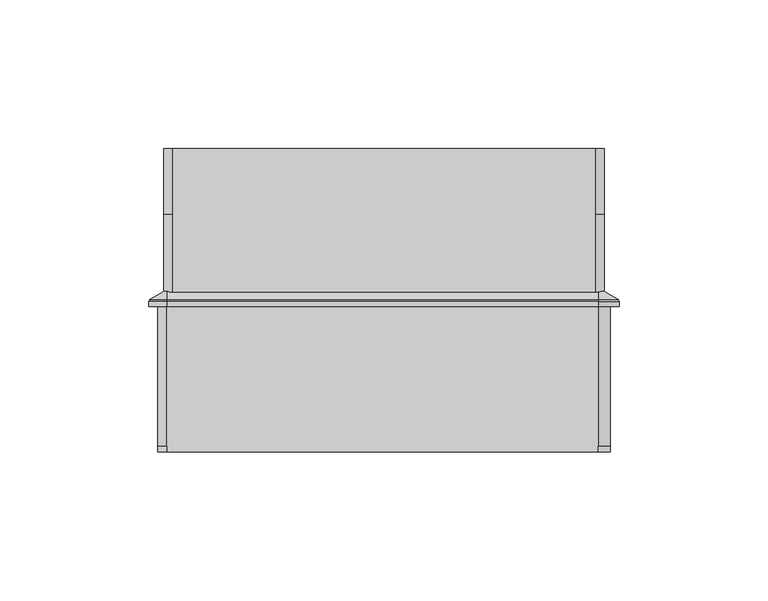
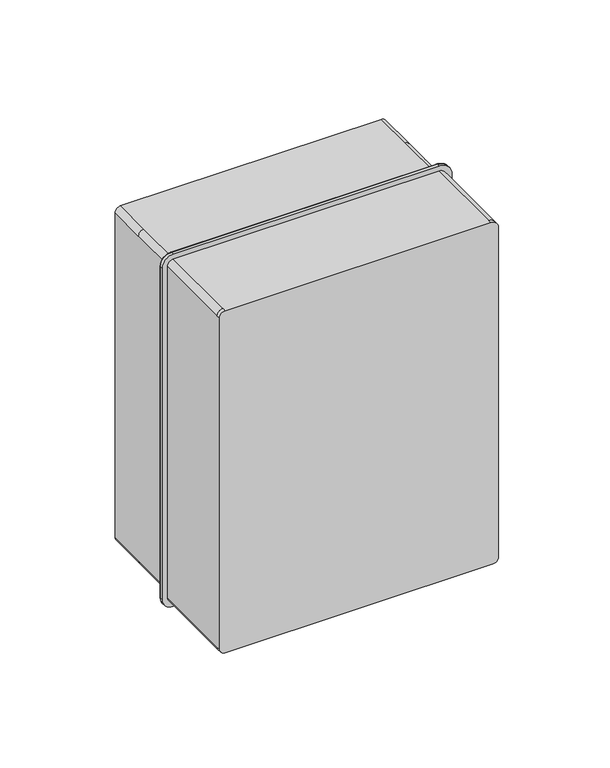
"""IFC4 building model written with IfcOpenShell, lengths in millimetres: proxy geometry, ЩРН-П-5_8_IP65 : ЩРН-П-8_IP65."""

from ifc_helpers import new_model, si_unit, point, frame, origin, place, context, project, spatial, polyline, circle_curve, ellipse_curve, trimmed, outline, extrude, source, transform, mapped, element, save
from ifc_brep_helpers import plane_surface, cylinder_surface, revolved_surface, advanced_brep


def electrical_equipment_87a8e6b7(model_context):
    return source(origin(), model_context, "Body", "SolidModel", [
        extrude(outline(polyline([(72.0, 82.0), (-72.0, 82.0), (-72.0, 102.0), (72.0, 102.0), (72.0, 82.0)])), frame((0.0, 0.0, -57.5), z_axis=(0.0, 0.0, 1.0), x_axis=(1.0, 0.0, 0.0)), (0.0, 0.0, 1.0), 115.0),
        advanced_brep(
        [(-73.0, 0.0, 98.5), (-76.0, 0.0, 95.5), (-76.0, 0.0, -95.5), (-73.0, 0.0, -98.5), (73.0, 0.0, -98.5), (76.0, 0.0, -95.5), (76.0, 0.0, 94.5283006), (72.0283006, 0.0, 98.5), (-73.0, 2.0, 98.5), (-76.0, 2.0, 95.5), (-76.0, 49.0, 95.5), (-76.0, 49.0, -95.5), (-76.0, 2.0, -95.5), (-73.0, 2.0, -98.5), (-73.0, 49.0, -98.5), (73.0, 49.0, -98.5), (73.0, 2.0, -98.5), (76.0, 2.0, -95.5), (76.0, 49.0, -95.5), (76.0, 49.0, 94.5283006), (76.0, 2.0, 94.5283006), (72.0283006, 2.0, 98.5), (72.0283006, 49.0, 98.5), (-73.0, 49.0, 98.5)],
        [
            (0, 1, circle_curve(frame((-73.0, 0.0, 95.5), z_axis=(0.0, -1.0, 0.0), x_axis=(1.0, 0.0, 0.0)), 3.0)),
            (1, 2),
            (2, 3, circle_curve(frame((-73.0, 0.0, -95.5), z_axis=(0.0, -1.0, 0.0), x_axis=(1.0, 0.0, 0.0)), 3.0)),
            (3, 4),
            (4, 5, circle_curve(frame((73.0, 0.0, -95.5), z_axis=(0.0, -1.0, 0.0), x_axis=(1.0, 0.0, 0.0)), 3.0)),
            (5, 6),
            (6, 7, circle_curve(frame((72.0283006, 0.0, 94.5283006), z_axis=(0.0, -1.0, 0.0), x_axis=(1.0, 0.0, 0.0)), 3.9716994)),
            (7, 0),
            (0, 8),
            (8, 9, circle_curve(frame((-73.0, 2.0, 95.5), z_axis=(0.0, -1.0, 0.0), x_axis=(1.0, 0.0, 0.0)), 3.0)),
            (9, 1),
            (9, 10),
            (10, 11),
            (11, 12),
            (12, 2),
            (12, 13, circle_curve(frame((-73.0, 2.0, -95.5), z_axis=(0.0, -1.0, 0.0), x_axis=(1.0, 0.0, 0.0)), 3.0)),
            (13, 3),
            (13, 14),
            (14, 15),
            (15, 16),
            (16, 4),
            (16, 17, circle_curve(frame((73.0, 2.0, -95.5), z_axis=(0.0, -1.0, 0.0), x_axis=(1.0, 0.0, 0.0)), 3.0)),
            (17, 5),
            (17, 18),
            (18, 19),
            (19, 20),
            (20, 6),
            (20, 21, circle_curve(frame((72.0283006, 2.0, 94.5283006), z_axis=(0.0, -1.0, 0.0), x_axis=(1.0, 0.0, 0.0)), 3.9716994)),
            (21, 7),
            (21, 22),
            (22, 23),
            (23, 8),
            (22, 19, circle_curve(frame((72.0283006, 49.0, 94.5283006), z_axis=(0.0, 1.0, 0.0), x_axis=(1.0, 0.0, 0.0)), 3.9716994)),
            (18, 15, circle_curve(frame((73.0, 49.0, -95.5), z_axis=(0.0, 1.0, 0.0), x_axis=(1.0, 0.0, 0.0)), 3.0)),
            (14, 11, circle_curve(frame((-73.0, 49.0, -95.5), z_axis=(0.0, 1.0, 0.0), x_axis=(1.0, 0.0, 0.0)), 3.0)),
            (10, 23, circle_curve(frame((-73.0, 49.0, 95.5), z_axis=(0.0, 1.0, 0.0), x_axis=(1.0, 0.0, 0.0)), 3.0)),
        ],
        [
            plane_surface(frame((-70.0, 0.0, 95.5), z_axis=(0.0, -1.0, 0.0), x_axis=(0.0, 0.0, 1.0))),
            cylinder_surface(frame((-73.0, 2.0, 95.5), z_axis=(0.0, -1.0, 0.0), x_axis=(1.0, 0.0, 0.0)), 3.0),
            plane_surface(frame((-76.0, 0.0, 95.5), z_axis=(-1.0, 0.0, 0.0), x_axis=(0.0, 1.0, 0.0))),
            cylinder_surface(frame((-73.0, 2.0, -95.5), z_axis=(0.0, -1.0, 0.0), x_axis=(1.0, 0.0, 0.0)), 3.0),
            plane_surface(frame((-73.0, 0.0, -98.5), z_axis=(0.0, 0.0, -1.0), x_axis=(0.0, 1.0, 0.0))),
            cylinder_surface(frame((73.0, 2.0, -95.5), z_axis=(0.0, -1.0, 0.0), x_axis=(1.0, 0.0, 0.0)), 3.0),
            plane_surface(frame((76.0, 0.0, -95.5), z_axis=(1.0, 0.0, 0.0), x_axis=(0.0, 1.0, 0.0))),
            cylinder_surface(frame((72.0283006, 2.0, 94.5283006), z_axis=(0.0, -1.0, 0.0), x_axis=(1.0, 0.0, 0.0)), 3.9716994),
            plane_surface(frame((72.0283006, 0.0, 98.5), z_axis=(0.0, 0.0, 1.0), x_axis=(0.0, 1.0, 0.0))),
            plane_surface(frame((-73.0, 49.0, 98.5), z_axis=(0.0, 1.0, 0.0), x_axis=(1.0, 0.0, 0.0))),
            cylinder_surface(frame((-73.0, 49.0, 95.5), z_axis=(0.0, -1.0, 0.0), x_axis=(1.0, 0.0, 0.0)), 3.0),
            cylinder_surface(frame((-73.0, 49.0, -95.5), z_axis=(0.0, -1.0, 0.0), x_axis=(1.0, 0.0, 0.0)), 3.0),
            cylinder_surface(frame((73.0, 49.0, -95.5), z_axis=(0.0, -1.0, 0.0), x_axis=(1.0, 0.0, 0.0)), 3.0),
            cylinder_surface(frame((72.0283006, 49.0, 94.5283006), z_axis=(0.0, -1.0, 0.0), x_axis=(1.0, 0.0, 0.0)), 3.9716994),
        ],
        [
            (0, [[1, 2, 3, 4, 5, 6, 7, 8]]),
            (1, [[-1, 9, 10, 11]]),
            (2, [[-2, -11, 12, 13, 14, 15]]),
            (3, [[-3, -15, 16, 17]]),
            (4, [[-4, -17, 18, 19, 20, 21]]),
            (5, [[-5, -21, 22, 23]]),
            (6, [[-6, -23, 24, 25, 26, 27]]),
            (7, [[-7, -27, 28, 29]]),
            (8, [[-8, -29, 30, 31, 32, -9]]),
            (9, [[33, -25, 34, -19, 35, -13, 36, -31]]),
            (10, [[-36, -12, -10, -32]]),
            (11, [[-35, -18, -16, -14]]),
            (12, [[-34, -24, -22, -20]]),
            (13, [[-33, -30, -28, -26]]),
        ],
    ),
        advanced_brep(
        [(71.0, 102.0, 96.5), (74.0, 102.0, 93.5), (74.0, 102.0, -93.5), (71.0, 102.0, -96.5), (-71.0, 102.0, -96.5), (-74.0, 102.0, -93.5), (-74.0, 102.0, 93.5), (-71.0, 102.0, 96.5), (72.0, 102.0, 57.4981471), (-72.0, 102.0, 57.4981471), (-72.0, 102.0, -57.4981471), (72.0, 102.0, -57.4981471), (72.0, 80.0, 57.4981471), (67.4911629, 80.0, 57.4981471), (67.4911629, 49.0, 57.4981471), (-67.4911629, 49.0, 57.4981471), (-67.4911629, 80.0, 57.4981471), (-72.0, 80.0, 57.4981471), (-72.0, 80.0, -57.4981471), (-67.4911629, 80.0, -57.4981471), (-67.4911629, 49.0, -57.4981471), (67.4911629, 49.0, -57.4981471), (67.4911629, 80.0, -57.4981471), (72.0, 80.0, -57.4981471), (-71.0, 80.0, 96.5), (-71.0, 49.0, 96.5), (71.0, 49.0, 96.5), (71.0, 80.0, 96.5), (-74.0, 80.0, 93.5), (-74.0, 80.0, -93.5), (-74.0, 49.0, -93.5), (-74.0, 49.0, 93.5), (-71.0, 80.0, -96.5), (71.0, 80.0, -96.5), (71.0, 49.0, -96.5), (-71.0, 49.0, -96.5), (74.0, 80.0, -93.5), (74.0, 80.0, 93.5), (74.0, 49.0, 93.5), (74.0, 49.0, -93.5)],
        [
            (0, 1, circle_curve(frame((71.0, 102.0, 93.5), z_axis=(0.0, 1.0, 0.0), x_axis=(1.0, 0.0, 0.0)), 3.0)),
            (1, 2),
            (2, 3, circle_curve(frame((71.0, 102.0, -93.5), z_axis=(0.0, 1.0, 0.0), x_axis=(1.0, 0.0, 0.0)), 3.0)),
            (3, 4),
            (4, 5, circle_curve(frame((-71.0, 102.0, -93.5), z_axis=(0.0, 1.0, 0.0), x_axis=(1.0, 0.0, 0.0)), 3.0)),
            (5, 6),
            (6, 7, circle_curve(frame((-71.0, 102.0, 93.5), z_axis=(0.0, 1.0, 0.0), x_axis=(1.0, 0.0, 0.0)), 3.0)),
            (7, 0),
            (8, 9),
            (9, 10),
            (10, 11),
            (11, 8),
            (8, 12),
            (12, 13),
            (13, 14),
            (14, 15),
            (15, 16),
            (16, 17),
            (17, 9),
            (17, 18),
            (18, 10),
            (18, 19),
            (19, 20),
            (20, 21),
            (21, 22),
            (22, 23),
            (23, 11),
            (23, 12),
            (7, 24),
            (24, 25),
            (25, 26),
            (26, 27),
            (27, 0),
            (6, 28),
            (28, 24, circle_curve(frame((-71.0, 80.0, 93.5), z_axis=(0.0, 1.0, 0.0), x_axis=(1.0, 0.0, 0.0)), 3.0)),
            (5, 29),
            (29, 30),
            (30, 31),
            (31, 28),
            (4, 32),
            (32, 29, circle_curve(frame((-71.0, 80.0, -93.5), z_axis=(0.0, 1.0, 0.0), x_axis=(1.0, 0.0, 0.0)), 3.0)),
            (3, 33),
            (33, 34),
            (34, 35),
            (35, 32),
            (2, 36),
            (36, 33, circle_curve(frame((71.0, 80.0, -93.5), z_axis=(0.0, 1.0, 0.0), x_axis=(1.0, 0.0, 0.0)), 3.0)),
            (1, 37),
            (37, 38),
            (38, 39),
            (39, 36),
            (27, 37, circle_curve(frame((71.0, 80.0, 93.5), z_axis=(0.0, 1.0, 0.0), x_axis=(1.0, 0.0, 0.0)), 3.0)),
            (25, 31, circle_curve(frame((-71.0, 49.0, 93.5), z_axis=(0.0, -1.0, 0.0), x_axis=(1.0, 0.0, 0.0)), 3.0)),
            (30, 35, circle_curve(frame((-71.0, 49.0, -93.5), z_axis=(0.0, -1.0, 0.0), x_axis=(1.0, 0.0, 0.0)), 3.0)),
            (34, 39, circle_curve(frame((71.0, 49.0, -93.5), z_axis=(0.0, -1.0, 0.0), x_axis=(1.0, 0.0, 0.0)), 3.0)),
            (38, 26, circle_curve(frame((71.0, 49.0, 93.5), z_axis=(0.0, -1.0, 0.0), x_axis=(1.0, 0.0, 0.0)), 3.0)),
            (14, 21),
            (20, 15),
            (16, 19),
            (22, 13),
        ],
        [
            plane_surface(frame((72.0, 102.0, 57.4981471), z_axis=(0.0, 1.0, 0.0), x_axis=(0.0, 0.0, 1.0))),
            plane_surface(frame((-72.0, 80.0, 57.4981471), z_axis=(0.0, 0.0, -1.0), x_axis=(0.0, 1.0, 0.0))),
            plane_surface(frame((-72.0, 80.0, -57.4981471), z_axis=(1.0, 0.0, 0.0), x_axis=(0.0, 1.0, 0.0))),
            plane_surface(frame((72.0, 80.0, -57.4981471), z_axis=(0.0, 0.0, 1.0), x_axis=(0.0, 1.0, 0.0))),
            plane_surface(frame((72.0, 80.0, 57.4981471), z_axis=(-1.0, 0.0, 0.0), x_axis=(0.0, 1.0, 0.0))),
            plane_surface(frame((71.0, 80.0, 96.5), z_axis=(0.0, 0.0, 1.0), x_axis=(0.0, 1.0, 0.0))),
            cylinder_surface(frame((-71.0, 102.0, 93.5), z_axis=(0.0, -1.0, 0.0), x_axis=(1.0, 0.0, 0.0)), 3.0),
            plane_surface(frame((-74.0, 80.0, 93.5), z_axis=(-1.0, 0.0, 0.0), x_axis=(0.0, 1.0, 0.0))),
            cylinder_surface(frame((-71.0, 102.0, -93.5), z_axis=(0.0, -1.0, 0.0), x_axis=(1.0, 0.0, 0.0)), 3.0),
            plane_surface(frame((-71.0, 80.0, -96.5), z_axis=(0.0, 0.0, -1.0), x_axis=(0.0, 1.0, 0.0))),
            cylinder_surface(frame((71.0, 102.0, -93.5), z_axis=(0.0, -1.0, 0.0), x_axis=(1.0, 0.0, 0.0)), 3.0),
            plane_surface(frame((74.0, 80.0, -93.5), z_axis=(1.0, 0.0, 0.0), x_axis=(0.0, 1.0, 0.0))),
            cylinder_surface(frame((71.0, 102.0, 93.5), z_axis=(0.0, -1.0, 0.0), x_axis=(1.0, 0.0, 0.0)), 3.0),
            plane_surface(frame((67.4911629, 49.0, 57.4981471), z_axis=(0.0, -1.0, 0.0), x_axis=(0.0, 0.0, -1.0))),
            plane_surface(frame((67.4911629, 80.0, 57.4981471), z_axis=(0.0, 1.0, 0.0), x_axis=(0.0, 0.0, 1.0))),
            plane_surface(frame((-67.4911629, 49.0, -57.4981471), z_axis=(1.0, 0.0, 0.0), x_axis=(0.0, 1.0, 0.0))),
            plane_surface(frame((67.4911629, 49.0, 57.4981471), z_axis=(-1.0, 0.0, 0.0), x_axis=(0.0, 1.0, 0.0))),
            cylinder_surface(frame((-71.0, 80.0, 93.5), z_axis=(0.0, -1.0, 0.0), x_axis=(1.0, 0.0, 0.0)), 3.0),
            cylinder_surface(frame((-71.0, 80.0, -93.5), z_axis=(0.0, -1.0, 0.0), x_axis=(1.0, 0.0, 0.0)), 3.0),
            cylinder_surface(frame((71.0, 80.0, -93.5), z_axis=(0.0, -1.0, 0.0), x_axis=(1.0, 0.0, 0.0)), 3.0),
            cylinder_surface(frame((71.0, 80.0, 93.5), z_axis=(0.0, -1.0, 0.0), x_axis=(1.0, 0.0, 0.0)), 3.0),
        ],
        [
            (0, [[1, 2, 3, 4, 5, 6, 7, 8], [9, 10, 11, 12]]),
            (1, [[-9, 13, 14, 15, 16, 17, 18, 19]]),
            (2, [[-10, -19, 20, 21]]),
            (3, [[-11, -21, 22, 23, 24, 25, 26, 27]]),
            (4, [[-12, -27, 28, -13]]),
            (5, [[-8, 29, 30, 31, 32, 33]]),
            (6, [[-7, 34, 35, -29]]),
            (7, [[-6, 36, 37, 38, 39, -34]]),
            (8, [[-5, 40, 41, -36]]),
            (9, [[-4, 42, 43, 44, 45, -40]]),
            (10, [[-3, 46, 47, -42]]),
            (11, [[-2, 48, 49, 50, 51, -46]]),
            (12, [[-1, -33, 52, -48]]),
            (13, [[-31, 53, -38, 54, -44, 55, -50, 56], [57, -24, 58, -16]]),
            (14, [[59, -22, -20, -18]]),
            (14, [[60, -14, -28, -26]]),
            (15, [[-58, -23, -59, -17]]),
            (16, [[-57, -15, -60, -25]]),
            (17, [[-53, -30, -35, -39]]),
            (18, [[-54, -37, -41, -45]]),
            (19, [[-55, -43, -47, -51]]),
            (20, [[-56, -49, -52, -32]]),
        ],
    ),
        advanced_brep(
        [(-78.9898142, 49.0, 95.507075), (-72.9776209, 49.0, 101.5192684), (-72.9776209, 50.5470477, 101.5192684), (-78.9898142, 50.5470477, 95.507075), (-73.9898142, 54.0, 95.507075), (-72.9776209, 54.0, 96.5192684), (-72.9776209, 49.0, 96.5192684), (-73.9898142, 49.0, 95.507075), (-78.9898142, 50.5470477, -95.4754068), (-78.9898142, 49.0, -95.4754068), (-73.9898142, 49.0, -95.4754068), (-73.9898142, 54.0, -95.4754068), (-72.998733, 49.0, -101.466488), (-72.998733, 50.5470477, -101.466488), (-72.998733, 54.0, -96.466488), (-72.998733, 49.0, -96.466488), (72.9496724, 50.5470477, -101.466488), (72.9496724, 49.0, -101.466488), (72.9496724, 49.0, -96.466488), (72.9496724, 54.0, -96.466488), (79.0141503, 49.0, -95.40201), (79.0141503, 50.5470477, -95.40201), (74.0141503, 54.0, -95.40201), (74.0141503, 49.0, -95.40201), (72.0135486, 49.0, 101.5192684), (72.0135486, 50.5470477, 101.5192684), (72.0135486, 54.0, 96.5192684), (72.0135486, 49.0, 96.5192684), (-78.6014108, 51.233042, 95.507075), (-72.9776209, 51.233042, 101.130865), (-78.6014108, 51.233042, -95.4754068), (-72.998733, 51.233042, -101.0780846), (72.9496724, 51.233042, -101.0780846), (78.6257469, 51.233042, -95.40201), (72.0135486, 51.233042, 101.130865), (74.0141503, 54.0, 94.5186666), (78.6257469, 51.233042, 94.5186666), (79.0141503, 50.5470477, 94.5186666), (79.0141503, 49.0, 94.5186666), (74.0141503, 49.0, 94.5186666)],
        [
            (0, 1, circle_curve(frame((-72.9776209, 49.0, 95.507075), z_axis=(0.0, 1.0, 0.0), x_axis=(0.0, 0.0, 1.0)), 6.0121934)),
            (1, 2),
            (2, 3, circle_curve(frame((-72.9776209, 50.5470477, 95.507075), z_axis=(0.0, -1.0, 0.0), x_axis=(0.0, 0.0, 1.0)), 6.0121934)),
            (3, 0),
            (4, 5, circle_curve(frame((-72.9776209, 54.0, 95.507075), z_axis=(0.0, 1.0, 0.0), x_axis=(0.0, 0.0, 1.0)), 1.0121934)),
            (5, 6),
            (6, 7, circle_curve(frame((-72.9776209, 49.0, 95.507075), z_axis=(0.0, -1.0, 0.0), x_axis=(0.0, 0.0, 1.0)), 1.0121934)),
            (7, 4),
            (3, 8),
            (8, 9),
            (9, 0),
            (7, 10),
            (10, 11),
            (11, 4),
            (12, 9, circle_curve(frame((-72.998733, 49.0, -95.4754068), z_axis=(0.0, 1.0, 0.0), x_axis=(-1.0, 0.0, 0.0)), 5.9910812)),
            (8, 13, circle_curve(frame((-72.998733, 50.5470477, -95.4754068), z_axis=(0.0, -1.0, 0.0), x_axis=(-1.0, 0.0, 0.0)), 5.9910812)),
            (13, 12),
            (14, 11, circle_curve(frame((-72.998733, 54.0, -95.4754068), z_axis=(0.0, 1.0, 0.0), x_axis=(-1.0, 0.0, 0.0)), 0.9910812)),
            (10, 15, circle_curve(frame((-72.998733, 49.0, -95.4754068), z_axis=(0.0, -1.0, 0.0), x_axis=(-1.0, 0.0, 0.0)), 0.9910812)),
            (15, 14),
            (13, 16),
            (16, 17),
            (17, 12),
            (15, 18),
            (18, 19),
            (19, 14),
            (20, 17, circle_curve(frame((72.9496724, 49.0, -95.40201), z_axis=(0.0, 1.0, 0.0), x_axis=(0.0, 0.0, -1.0)), 6.064478)),
            (16, 21, circle_curve(frame((72.9496724, 50.5470477, -95.40201), z_axis=(0.0, -1.0, 0.0), x_axis=(0.0, 0.0, -1.0)), 6.064478)),
            (21, 20),
            (22, 19, circle_curve(frame((72.9496724, 54.0, -95.40201), z_axis=(0.0, 1.0, 0.0), x_axis=(0.0, 0.0, -1.0)), 1.064478)),
            (18, 23, circle_curve(frame((72.9496724, 49.0, -95.40201), z_axis=(0.0, -1.0, 0.0), x_axis=(0.0, 0.0, -1.0)), 1.064478)),
            (23, 22),
            (24, 25),
            (25, 2),
            (1, 24),
            (26, 27),
            (27, 6),
            (5, 26),
            (28, 29, circle_curve(frame((-72.9776209, 51.233042, 95.507075), z_axis=(0.0, 1.0, 0.0), x_axis=(0.0, 0.0, 1.0)), 5.62379)),
            (29, 5),
            (4, 28),
            (2, 29, circle_curve(frame((-72.9776209, 50.5470477, 100.7192684), z_axis=(-1.0, 0.0, 0.0), x_axis=(0.0, 0.0, -1.0)), 0.8)),
            (28, 3, circle_curve(frame((-78.1898142, 50.5470477, 95.507075), z_axis=(0.0, 0.0, 1.0), x_axis=(1.0, 0.0, 0.0)), 0.8)),
            (11, 30),
            (30, 28),
            (30, 8, circle_curve(frame((-78.1898142, 50.5470477, -95.4754068), z_axis=(0.0, 0.0, 1.0), x_axis=(1.0, 0.0, 0.0)), 0.8)),
            (31, 30, circle_curve(frame((-72.998733, 51.233042, -95.4754068), z_axis=(0.0, 1.0, 0.0), x_axis=(-1.0, 0.0, 0.0)), 5.6026778)),
            (14, 31),
            (31, 13, circle_curve(frame((-72.998733, 50.5470477, -100.666488), z_axis=(-1.0, 0.0, 0.0), x_axis=(0.0, 0.0, 1.0)), 0.8)),
            (19, 32),
            (32, 31),
            (32, 16, circle_curve(frame((72.9496724, 50.5470477, -100.666488), z_axis=(-1.0, 0.0, 0.0), x_axis=(0.0, 0.0, 1.0)), 0.8)),
            (33, 32, circle_curve(frame((72.9496724, 51.233042, -95.40201), z_axis=(0.0, 1.0, 0.0), x_axis=(0.0, 0.0, -1.0)), 5.6760746)),
            (22, 33),
            (33, 21, circle_curve(frame((78.2141503, 50.5470477, -95.40201), z_axis=(0.0, 0.0, -1.0), x_axis=(-1.0, 0.0, 0.0)), 0.8)),
            (34, 26),
            (29, 34),
            (25, 34, circle_curve(frame((72.0135486, 50.5470477, 100.7192684), z_axis=(-1.0, 0.0, 0.0), x_axis=(0.0, 0.0, -1.0)), 0.8)),
            (22, 35),
            (35, 36),
            (36, 33),
            (36, 37, circle_curve(frame((78.2141503, 50.5470477, 94.5186666), z_axis=(0.0, 0.0, -1.0), x_axis=(-1.0, 0.0, 0.0)), 0.8)),
            (37, 21),
            (37, 38),
            (38, 20),
            (23, 39),
            (39, 35),
            (34, 36, circle_curve(frame((72.0135486, 51.233042, 94.5186666), z_axis=(0.0, 1.0, 0.0), x_axis=(1.0, 0.0, 0.0)), 6.6121984)),
            (35, 26, circle_curve(frame((72.0135486, 54.0, 94.5186666), z_axis=(0.0, -1.0, 0.0), x_axis=(1.0, 0.0, 0.0)), 2.0006018)),
            (25, 37, circle_curve(frame((72.0135486, 50.5470477, 94.5186666), z_axis=(0.0, 1.0, 0.0), x_axis=(1.0, 0.0, 0.0)), 7.0006018)),
            (24, 38, circle_curve(frame((72.0135486, 49.0, 94.5186666), z_axis=(0.0, 1.0, 0.0), x_axis=(1.0, 0.0, 0.0)), 7.0006018)),
            (27, 39, circle_curve(frame((72.0135486, 49.0, 94.5186666), z_axis=(0.0, 1.0, 0.0), x_axis=(1.0, 0.0, 0.0)), 2.0006018)),
        ],
        [
            cylinder_surface(frame((-72.9776209, 0.0, 95.507075), z_axis=(0.0, -1.0, 0.0), x_axis=(0.0, 0.0, 1.0)), 6.0121934),
            revolved_surface(polyline([(-72.9776209, 49.0, 96.5192684), (-72.9776209, 54.0, 96.5192684)]), (-72.9776209, 0.0, 95.507075), (0.0, -1.0, 0.0)),
            plane_surface(frame((-78.9898142, 50.5470477, 95.507075), z_axis=(-1.0, 0.0, 0.0), x_axis=(0.0, 0.0, -1.0))),
            plane_surface(frame((-73.9898142, 49.0, 95.507075), z_axis=(1.0, 0.0, 0.0), x_axis=(0.0, 0.0, -1.0))),
            cylinder_surface(frame((-72.998733, 0.0, -95.4754068), z_axis=(0.0, -1.0, 0.0), x_axis=(-1.0, 0.0, 0.0)), 5.9910812),
            revolved_surface(polyline([(-73.9898142, 49.0, -95.4754068), (-73.9898142, 54.0, -95.4754068)]), (-72.998733, 0.0, -95.4754068), (0.0, -1.0, 0.0)),
            plane_surface(frame((-72.998733, 50.5470477, -101.466488), z_axis=(0.0, 0.0, -1.0), x_axis=(1.0, 0.0, 0.0))),
            plane_surface(frame((-72.998733, 49.0, -96.466488), z_axis=(0.0, 0.0, 1.0), x_axis=(1.0, 0.0, 0.0))),
            cylinder_surface(frame((72.9496724, 0.0, -95.40201), z_axis=(0.0, -1.0, 0.0), x_axis=(0.0, 0.0, -1.0)), 6.064478),
            revolved_surface(polyline([(72.9496724, 49.0, -96.466488), (72.9496724, 54.0, -96.466488)]), (72.9496724, 0.0, -95.40201), (0.0, -1.0, 0.0)),
            plane_surface(frame((72.0135486, 50.5470477, 101.5192684), z_axis=(0.0, 0.0, 1.0), x_axis=(-1.0, 0.0, 0.0))),
            plane_surface(frame((72.0135486, 49.0, 96.5192684), z_axis=(0.0, 0.0, -1.0), x_axis=(-1.0, 0.0, 0.0))),
            revolved_surface(polyline([(-72.9776209, 54.0, 96.5192684), (-72.9776209, 51.233042, 101.130865)]), (-72.9776209, 0.0, 95.507075), (0.0, -1.0, 0.0)),
            revolved_surface(trimmed(ellipse_curve(frame((-72.9776209, 50.5470477, 100.7192684), z_axis=(1.0, 0.0, 0.0), x_axis=(0.0, 0.0, -1.0)), 0.8, 0.8), [point((-72.9776209, 51.233042, 101.130865))], [point((-72.9776209, 50.5470477, 101.5192684))], True, "CARTESIAN"), (-72.9776209, 0.0, 95.507075), (0.0, -1.0, 0.0)),
            plane_surface(frame((-73.9898142, 54.0, 95.507075), z_axis=(-0.5144957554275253, 0.8574929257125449, 0.0), x_axis=(0.0, 0.0, -1.0))),
            cylinder_surface(frame((-78.1898142, 50.5470477, 95.507075), z_axis=(0.0, 0.0, 1.0), x_axis=(1.0, 0.0, 0.0)), 0.8),
            revolved_surface(polyline([(-73.9898142, 54.0, -95.4754068), (-78.6014108, 51.233042, -95.4754068)]), (-72.998733, 0.0, -95.4754068), (0.0, -1.0, 0.0)),
            revolved_surface(trimmed(ellipse_curve(frame((-78.1898142, 50.5470477, -95.4754068), z_axis=(0.0, 0.0, 1.0), x_axis=(1.0, 0.0, 0.0)), 0.8, 0.8), [point((-78.6014108, 51.233042, -95.4754068))], [point((-78.9898142, 50.5470477, -95.4754068))], True, "CARTESIAN"), (-72.998733, 0.0, -95.4754068), (0.0, -1.0, 0.0)),
            plane_surface(frame((-72.998733, 54.0, -96.466488), z_axis=(0.0, 0.8574929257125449, -0.5144957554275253), x_axis=(1.0, 0.0, 0.0))),
            cylinder_surface(frame((-72.998733, 50.5470477, -100.666488), z_axis=(-1.0, 0.0, 0.0), x_axis=(0.0, 0.0, 1.0)), 0.8),
            revolved_surface(polyline([(72.9496724, 54.0, -96.466488), (72.9496724, 51.233042, -101.0780846)]), (72.9496724, 0.0, -95.40201), (0.0, -1.0, 0.0)),
            revolved_surface(trimmed(ellipse_curve(frame((72.9496724, 50.5470477, -100.666488), z_axis=(-1.0, 0.0, 0.0), x_axis=(0.0, 0.0, 1.0)), 0.8, 0.8), [point((72.9496724, 51.233042, -101.0780846))], [point((72.9496724, 50.5470477, -101.466488))], True, "CARTESIAN"), (72.9496724, 0.0, -95.40201), (0.0, -1.0, 0.0)),
            plane_surface(frame((72.0135486, 54.0, 96.5192684), z_axis=(0.0, 0.8574929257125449, 0.5144957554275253), x_axis=(-1.0, 0.0, 0.0))),
            cylinder_surface(frame((72.0135486, 50.5470477, 100.7192684), z_axis=(1.0, 0.0, 0.0), x_axis=(0.0, 0.0, -1.0)), 0.8),
            plane_surface(frame((74.0141503, 54.0, -95.40201), z_axis=(0.5144957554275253, 0.8574929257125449, 0.0), x_axis=(0.0, 0.0, 1.0))),
            cylinder_surface(frame((78.2141503, 50.5470477, -95.40201), z_axis=(0.0, 0.0, -1.0), x_axis=(-1.0, 0.0, 0.0)), 0.8),
            plane_surface(frame((79.0141503, 50.5470477, -95.40201), z_axis=(1.0, 0.0, 0.0), x_axis=(0.0, 0.0, 1.0))),
            plane_surface(frame((74.0141503, 49.0, -95.40201), z_axis=(-1.0, 0.0, 0.0), x_axis=(0.0, 0.0, 1.0))),
            revolved_surface(polyline([(74.0141503, 54.0, 94.5186666), (78.6257469, 51.233042, 94.5186666)]), (72.0135486, 0.0, 94.5186666), (0.0, -1.0, 0.0)),
            revolved_surface(trimmed(ellipse_curve(frame((78.2141503, 50.5470477, 94.5186666), z_axis=(0.0, 0.0, -1.0), x_axis=(-1.0, 0.0, 0.0)), 0.8, 0.8), [point((78.6257469, 51.233042, 94.5186666))], [point((79.0141503, 50.5470477, 94.5186666))], True, "CARTESIAN"), (72.0135486, 0.0, 94.5186666), (0.0, -1.0, 0.0)),
            cylinder_surface(frame((72.0135486, 0.0, 94.5186666), z_axis=(0.0, -1.0, 0.0), x_axis=(1.0, 0.0, 0.0)), 7.0006018),
            plane_surface(frame((72.0135486, 49.0, 94.5186666), z_axis=(0.0, -1.0, 0.0), x_axis=(1.0, 0.0, 0.0))),
            revolved_surface(polyline([(74.01415039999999, 49.0, 94.5186666), (74.01415039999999, 54.0, 94.5186666)]), (72.0135486, 0.0, 94.5186666), (0.0, -1.0, 0.0)),
        ],
        [
            (0, [[1, 2, 3, 4]]),
            (1, [[5, 6, 7, 8]]),
            (2, [[-4, 9, 10, 11]]),
            (3, [[-8, 12, 13, 14]]),
            (4, [[15, -10, 16, 17]]),
            (5, [[18, -13, 19, 20]]),
            (6, [[-17, 21, 22, 23]]),
            (7, [[-20, 24, 25, 26]]),
            (8, [[27, -22, 28, 29]]),
            (9, [[30, -25, 31, 32]]),
            (10, [[33, 34, -2, 35]]),
            (11, [[36, 37, -6, 38]]),
            (12, [[39, 40, -5, 41]]),
            (13, [[-3, 42, -39, 43]]),
            (14, [[-41, -14, 44, 45]]),
            (15, [[-43, -45, 46, -9]]),
            (16, [[47, -44, -18, 48]]),
            (17, [[-16, -46, -47, 49]]),
            (18, [[-48, -26, 50, 51]]),
            (19, [[-49, -51, 52, -21]]),
            (20, [[53, -50, -30, 54]]),
            (21, [[-28, -52, -53, 55]]),
            (22, [[56, -38, -40, 57]]),
            (23, [[58, -57, -42, -34]]),
            (24, [[-54, 59, 60, 61]]),
            (25, [[-55, -61, 62, 63]]),
            (26, [[-29, -63, 64, 65]]),
            (27, [[-32, 66, 67, -59]]),
            (28, [[68, -60, 69, -56]]),
            (29, [[70, -62, -68, -58]]),
            (30, [[71, -64, -70, -33]]),
            (31, [[-27, -65, -71, -35, -1, -11, -15, -23], [72, -66, -31, -24, -19, -12, -7, -37]]),
            (32, [[-69, -67, -72, -36]]),
        ],
    ),
    ])


if __name__ == "__main__":
    model = new_model("IFC4")
    model_context = context("Model", 3, world=origin())
    ifc_project = project(units=[si_unit("LENGTHUNIT", "METRE", prefix="MILLI")], contexts=[model_context])
    site = spatial("IfcSite", under=ifc_project)
    building = spatial("IfcBuilding", under=site)
    placement = place(None, origin())
    electrical_equipment_shape = electrical_equipment_87a8e6b7(model_context)
    element("IfcBuildingElementProxy", 1, Name="ЩРН-П-5_8_IP65 : ЩРН-П-8_IP65", ObjectType="ЩРН-П-5_8_IP65 : ЩРН-П-8_IP65", at=placement, inside=building, context=model_context, shape_type="MappedRepresentation", body=[
        mapped(electrical_equipment_shape, transform((0.0, 0.0, 0.0), x_axis=(1.0, 0.0, 0.0), y_axis=(0.0, 1.0, 0.0), z_axis=(0.0, 0.0, 1.0))),
    ])
    save(model, "model.ifc")
